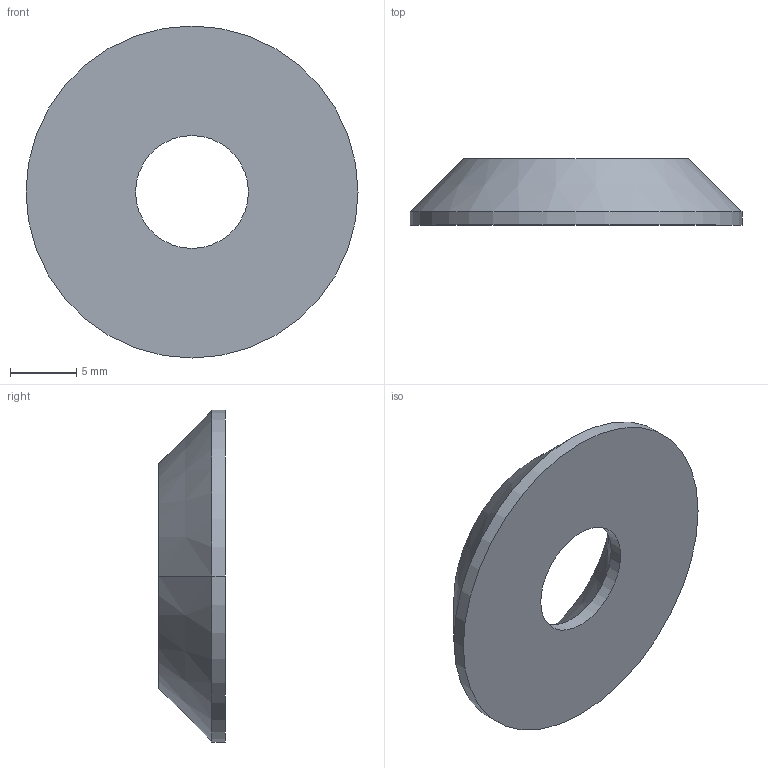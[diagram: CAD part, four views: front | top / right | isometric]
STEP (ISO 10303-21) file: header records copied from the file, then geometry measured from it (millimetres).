
FILE_DESCRIPTION((''),'2;1');
FILE_NAME('GIS450P_3','2002-12-27T',('Lipro doo'),('Lipro d.o.o.'),'PRO/ENGINEER BY PARAMETRIC TECHNOLOGY CORPORATION, 2001150','PRO/ENGINEER BY PARAMETRIC TECHNOLOGY CORPORATION, 2001150','');
FILE_SCHEMA(('CONFIG_CONTROL_DESIGN'));
Length unit declared in the file: millimetre
Products named in the file (1): GIS450P_3
Bounding box: 25 x 5 x 25 mm (x, y, z)
Volume: 1328.7 mm3; surface area: 1147.9 mm2
Topology: 1 solids, 1 shells, 10 faces, 20 edges, 12 vertices
Faces by surface type: cylinder 4, cone 4, plane 2
Entity records: 306 total; most frequent: DIRECTION 52, CARTESIAN_POINT 42, ORIENTED_EDGE 40, AXIS2_PLACEMENT_3D 22, EDGE_CURVE 20, VERTEX_POINT 12, EDGE_LOOP 12, CIRCLE 12
